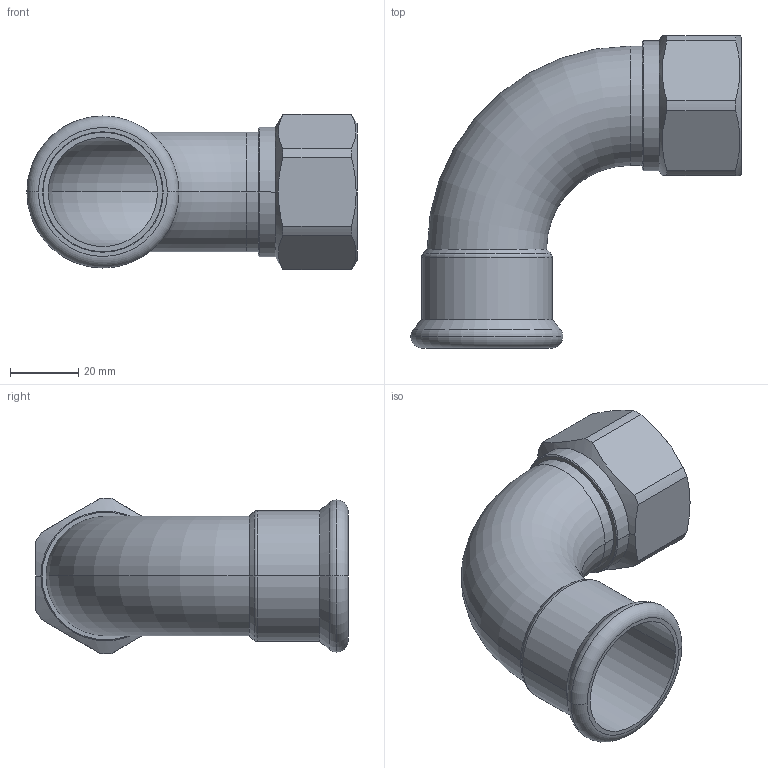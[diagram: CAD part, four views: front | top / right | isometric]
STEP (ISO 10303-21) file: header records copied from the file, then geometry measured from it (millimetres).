
FILE_DESCRIPTION(('CoCreate Modeling STEP Export'),'2;1');
FILE_NAME('C1438 35xRp1.stp','2014-11-12T16:38:07',(''),(''),'CoCreate Modeling STEP processor for AP214 (Solid Model)','CoCreate Modeling 17.00A 17-Jun-2010 (C) Parametric Technology GmbH','');
FILE_SCHEMA(('AUTOMOTIVE_DESIGN { 1 0 10303 214 1 1 1 1 }'));
Length unit declared in the file: millimetre
Products named in the file (2): C1438_35xRp1
Assembly tree (1 placements, depth 2):
  C1438_35xRp1
    C1438_35xRp1
Bounding box: 96.78 x 91.5 x 45.69 mm (x, y, z)
Volume: 37016.4 mm3; surface area: 30245.1 mm2
Topology: 1 solids, 1 shells, 60 faces, 138 edges, 85 vertices
Faces by surface type: cylinder 22, cone 14, plane 14, torus 10
Entity records: 2688 total; most frequent: CARTESIAN_POINT 1478, ORIENTED_EDGE 276, DIRECTION 196, EDGE_CURVE 138, VERTEX_POINT 85, AXIS2_PLACEMENT_3D 77, EDGE_LOOP 67, FACE_OUTER_BOUND 60
